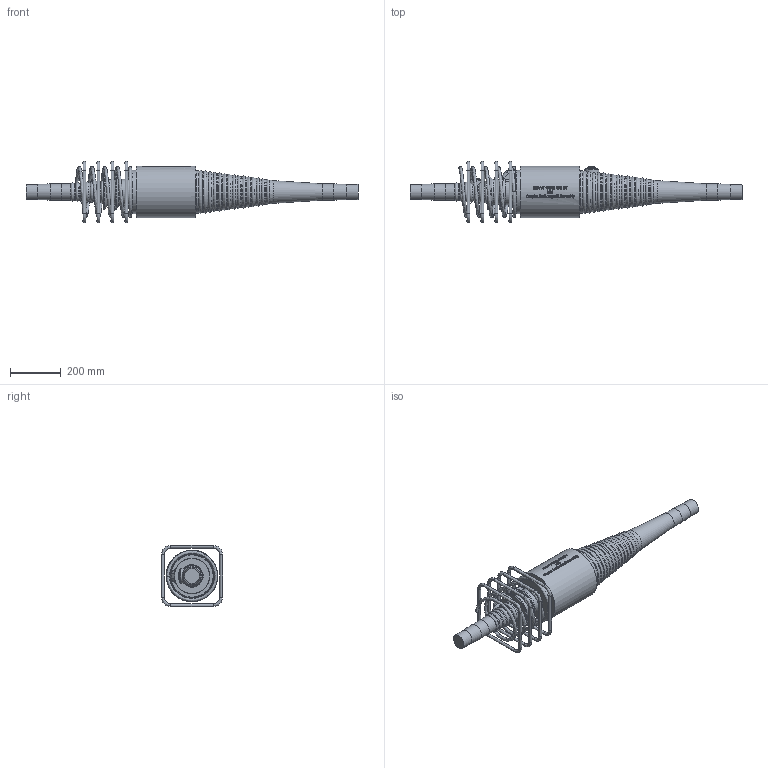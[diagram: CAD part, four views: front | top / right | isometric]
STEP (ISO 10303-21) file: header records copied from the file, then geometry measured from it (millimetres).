
FILE_DESCRIPTION(/* description */ (''),/* implementation_level */ '2;1');
FILE_NAME(/* name */ 'Z:\04 Publications\05 Give-out\BBR\6_3D_Models\BBR VT CONA CMI\BBR VT CONA CMI BT\00706\BBR VT CONA CMI BT 706_Coupler H Assembly_CS-34,28.stp',/* time_stamp */ '2017-05-04T16:42:50+02:00',/* author */ ('IP'),/* organization */ (''),/* preprocessor_version */ 'ST-DEVELOPER v16.1',/* originating_system */ 'Autodesk Inventor 2016',/* authorisation */ '');
FILE_SCHEMA (('AUTOMOTIVE_DESIGN { 1 0 10303 214 3 1 1 }'));
Length unit declared in the file: millimetre
Products named in the file (1): BBR VT CONA CMI BT 706_Coupler H Assembly_CS-34,28
Bounding box: 1303 x 240 x 240 mm (x, y, z)
Volume: 16445488.7 mm3; surface area: 785756.8 mm2
Topology: 6 solids, 6 shells, 922 faces, 2341 edges, 1486 vertices
Faces by surface type: bspline 368, plane 299, torus 106, cylinder 100, cone 25, sphere 24
Full cylindrical faces by diameter (mm): 12 x16, 34 x2, 57 x2, 59 x2, 64 x2, 133.801 x1, 139.387 x1, 170 x1, 203 x1
Entity records: 36470 total; most frequent: CARTESIAN_POINT 16576, ORIENTED_EDGE 4390, DIRECTION 3155, EDGE_CURVE 2195, VERTEX_POINT 1476, AXIS2_PLACEMENT_3D 1136, EDGE_LOOP 1121, FACE_OUTER_BOUND 922
